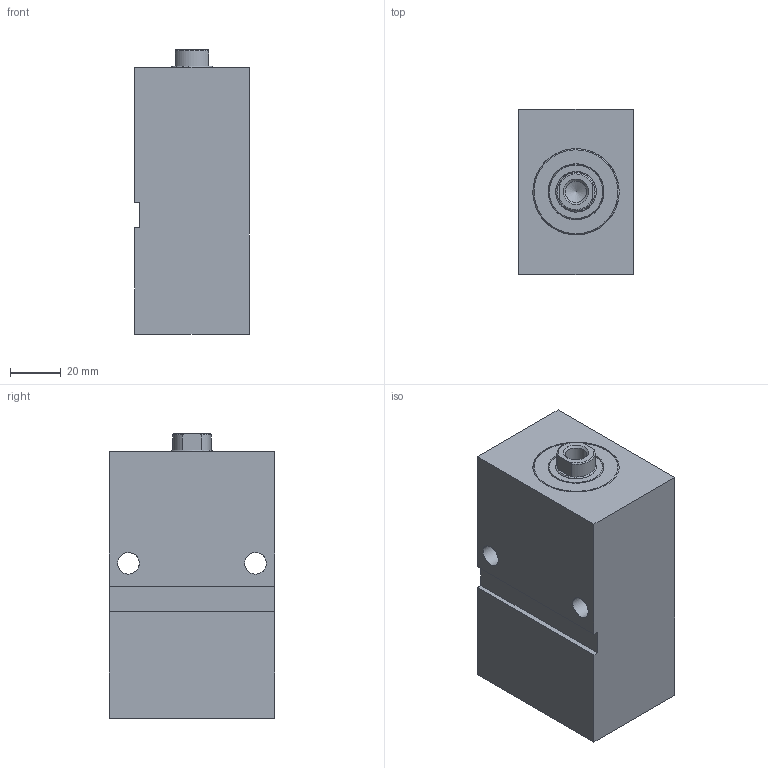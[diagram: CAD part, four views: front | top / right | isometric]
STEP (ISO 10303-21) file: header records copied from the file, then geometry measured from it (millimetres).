
FILE_DESCRIPTION( ( 'STEP AP203' ), '1' );
FILE_NAME( 'C:/Users/SAYKO.ltd/Desktop/SBZ100/03/SBZ100-25/SBZ100.25__FORM_03_STROKE_40__H2_58_POS_0_.stp', ' ', ( ' ' ), ( ' ' ), 'PSStep 15.0.47', 'PARTsolutions', ' ' );
FILE_SCHEMA( ( 'CONFIG_CONTROL_DESIGN' ) );
Length unit declared in the file: millimetre
Products named in the file (5): SBZ100.25  FORM=03 STROKE=40 (H2=58 POS=0); HI_SBZ10025  FORM=03 STROKE=40 H2=58 -C; HI_SBZ10025  FORM=03 STROKE=40-R; HI_SBZ100.25-C; HI_SBZ100.25-S
Assembly tree (4 placements, depth 2):
  SBZ100.25  FORM=03 STROKE=40 (H2=58 POS=0)
    HI_SBZ10025  FORM=03 STROKE=40 H2=58 -C
    HI_SBZ10025  FORM=03 STROKE=40-R
    HI_SBZ100.25-C
    HI_SBZ100.25-S
Bounding box: 45 x 65 x 112 mm (x, y, z)
Volume: 285701.6 mm3; surface area: 54515.1 mm2
Topology: 4 solids, 4 shells, 60 faces, 124 edges, 81 vertices
Faces by surface type: plane 31, cylinder 22, cone 4, torus 3
Full cylindrical faces by diameter (mm): 3 x2, 8.376 x1, 8.5 x2, 11.445 x2, 16 x6, 22 x1, 24 x2, 25 x2, 34 x2
Entity records: 3143 total; most frequent: CARTESIAN_POINT 1971, ORIENTED_EDGE 176, DIRECTION 154, EDGE_LOOP 108, EDGE_CURVE 88, FACE_OUTER_BOUND 81, VERTEX_POINT 73, AXIS2_PLACEMENT_3D 65
